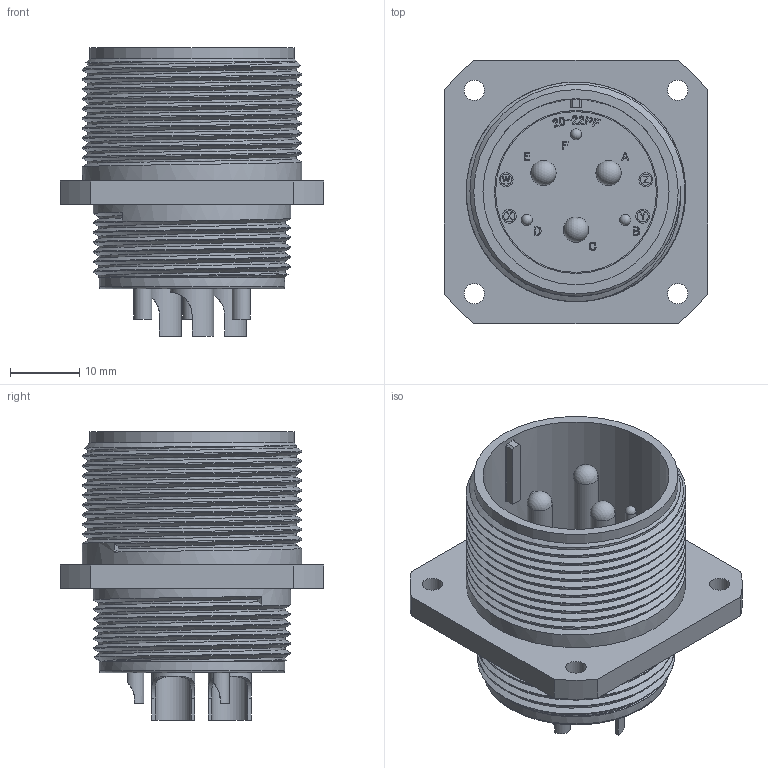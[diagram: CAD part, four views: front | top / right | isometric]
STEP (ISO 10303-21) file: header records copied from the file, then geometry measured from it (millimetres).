
FILE_DESCRIPTION (( 'STEP AP203' ), '1' );
FILE_NAME ('DMS3100A20-22P(D263).STEP', '2022-02-02T06:25:32', ( '' ), ( '' ), 'SwSTEP 2.0', 'SolidWorks 2018', '' );
FILE_SCHEMA (( 'CONFIG_CONTROL_DESIGN' ));
Length unit declared in the file: millimetre
Products named in the file (1): DMS3100A20-22P(D263)
Bounding box: 38.1 x 38.1 x 41.66 mm (x, y, z)
Volume: 14734.9 mm3; surface area: 11778.6 mm2
Topology: 1 solids, 1 shells, 716 faces, 1907 edges, 1259 vertices
Faces by surface type: plane 366, bspline 233, cylinder 99, torus 9, sphere 6, cone 3
Full cylindrical faces by diameter (mm): 1.59 x3, 1.6 x4, 2 x4, 2.93 x4, 3.63 x3, 5.21 x3, 6.25 x3, 20.62 x1, 23.24 x1, 23.55 x1, 24.84 x1, 26.8 x1, 26.87 x1, 28.53 x6, 29.52 x1, 31.71 x10
Entity records: 31185 total; most frequent: CARTESIAN_POINT 15653, ORIENTED_EDGE 3568, DIRECTION 2360, EDGE_CURVE 1784, VERTEX_POINT 1201, VECTOR 1130, LINE 1130, EDGE_LOOP 821
